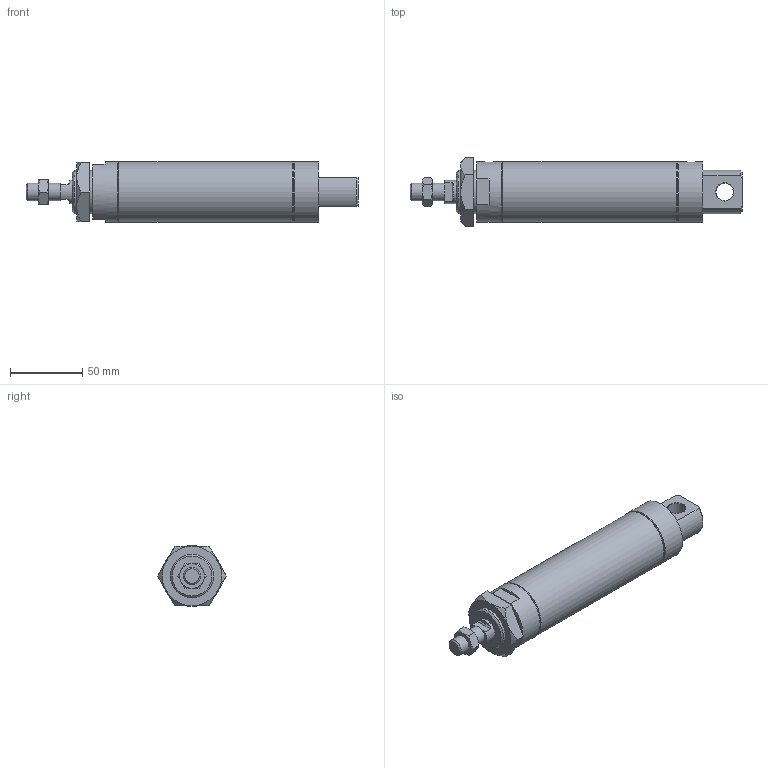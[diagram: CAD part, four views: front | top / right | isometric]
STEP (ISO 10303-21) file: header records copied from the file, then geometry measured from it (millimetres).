
FILE_DESCRIPTION( ( 'STEP AP214' ), '1' );
FILE_NAME( 'C:/Users/emc02044/Desktop/RA/RAC40X80-S.stp', '2026-08-14T11:09:51', ( 'License CC BY-ND 4.0' ), ( 'CADENAS' ), ' ', 'PARTsolutions', ' ' );
FILE_SCHEMA( ( 'AUTOMOTIVE_DESIGN { 1 0 10303 214 1 1 1 1 }' ) );
Length unit declared in the file: millimetre
Products named in the file (3): RAC40X80-0-S()(0); _C40X80()_body; _40x80_rod
Assembly tree (2 placements, depth 2):
  RAC40X80-0-S()(0)
    _C40X80()_body
    _40x80_rod
Bounding box: 229 x 47.34 x 42 mm (x, y, z)
Volume: 156377.1 mm3; surface area: 60020.5 mm2
Topology: 2 solids, 2 shells, 97 faces, 209 edges, 130 vertices
Faces by surface type: plane 47, cone 29, cylinder 21
Full cylindrical faces by diameter (mm): 2 x2, 8.566 x2, 12 x3, 16 x2, 20 x1, 30 x2, 38 x1, 40 x1, 41.6 x3, 42 x2
Entity records: 3620 total; most frequent: CARTESIAN_POINT 869, DIRECTION 406, ORIENTED_EDGE 342, AXIS2_PLACEMENT_3D 179, EDGE_CURVE 171, EDGE_LOOP 145, VERTEX_POINT 120, FACE_OUTER_BOUND 116
